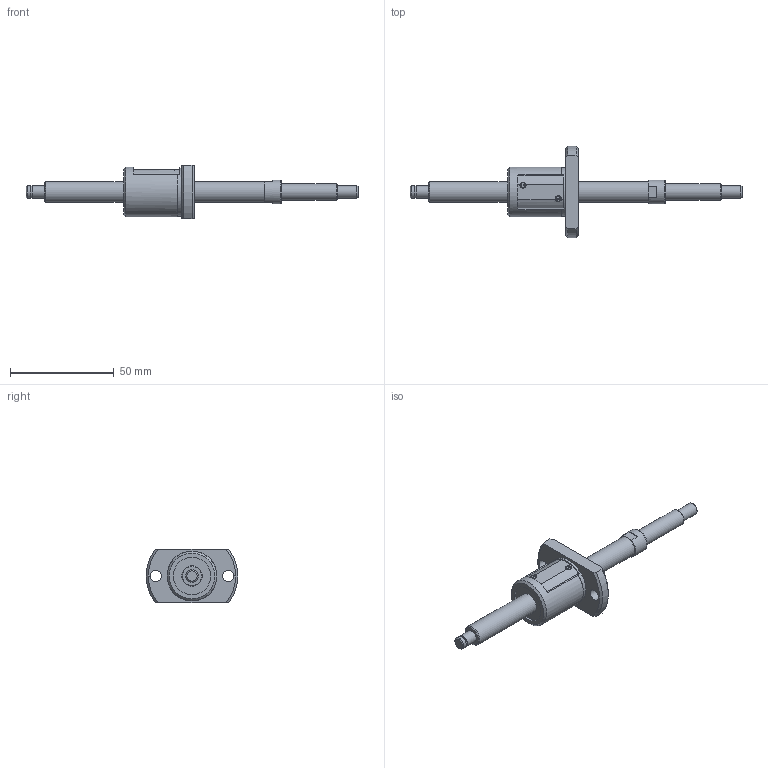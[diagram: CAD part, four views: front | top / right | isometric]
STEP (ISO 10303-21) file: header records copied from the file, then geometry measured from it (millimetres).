
FILE_DESCRIPTION(/* description */ ('STEP AP214'),/* implementation_level */ '2;1');
FILE_NAME(/* name */ 'SG1005-101R160C5B0X(38)',/* time_stamp */ '2026-07-24T15:16:08+02:00',/* author */ ('License CC BY-ND 4.0'),/* organization */ ('CADENAS'),/* preprocessor_version */ 'ST-DEVELOPER v20',/* originating_system */ 'PARTsolutions',/* authorisation */ ' ');
FILE_SCHEMA (('AUTOMOTIVE_DESIGN {1 0 10303 214 3 1 1}'));
Length unit declared in the file: millimetre
Products named in the file (3): SG1005-101R160C5B0X(38); SG1005-101R160C5B_shaft; SG1005 C5_nut
Assembly tree (2 placements, depth 2):
  SG1005-101R160C5B0X(38)
    SG1005-101R160C5B_shaft
    SG1005 C5_nut
Bounding box: 160 x 44 x 26 mm (x, y, z)
Volume: 26381.2 mm3; surface area: 10867.4 mm2
Topology: 2 solids, 2 shells, 79 faces, 188 edges, 123 vertices
Faces by surface type: plane 38, cylinder 26, cone 14, torus 1
Full cylindrical faces by diameter (mm): 5.5 x2, 5.7 x1, 6 x3, 8 x1, 10 x2, 11.5 x1, 18 x2, 23.5 x1, 24 x1
Entity records: 2197 total; most frequent: CARTESIAN_POINT 408, DIRECTION 374, ORIENTED_EDGE 306, AXIS2_PLACEMENT_3D 157, EDGE_CURVE 153, EDGE_LOOP 120, FACE_BOUND 120, VERTEX_POINT 113
